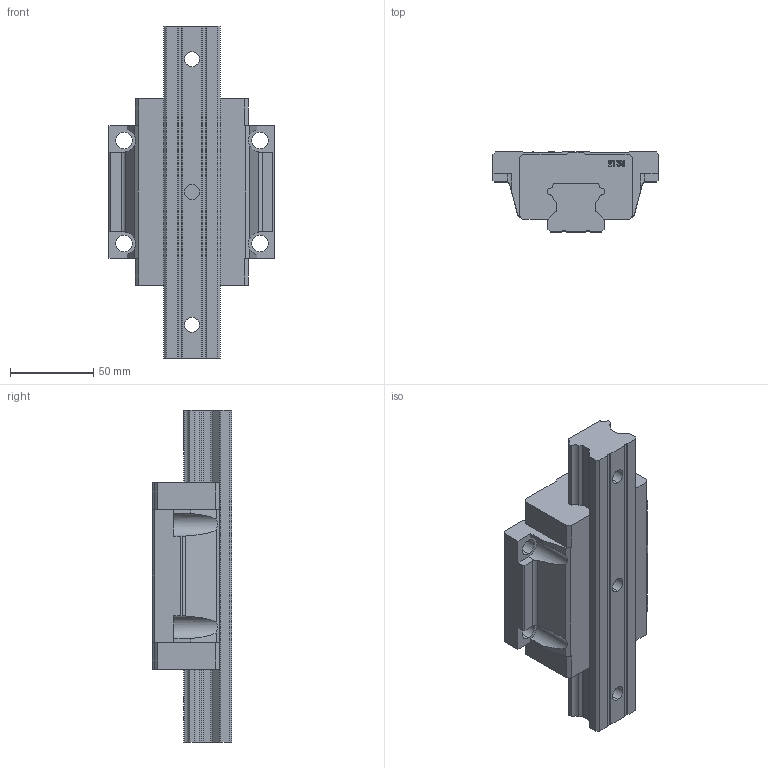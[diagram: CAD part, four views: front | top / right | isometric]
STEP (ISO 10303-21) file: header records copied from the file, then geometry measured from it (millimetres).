
FILE_DESCRIPTION (( 'STEP AP214' ), '1' );
FILE_NAME ('7.1005 Lineaarikelkka HTW35CC.STEP', '2026-03-11T11:01:09', ( '' ), ( '' ), 'SwSTEP 2.0', 'SolidWorks 2025', '' );
FILE_SCHEMA (( 'AUTOMOTIVE_DESIGN' ));
Length unit declared in the file: millimetre
Products named in the file (3): HTW35; HTR35; 7.1005 Lineaarikelkka HTW35CC
Assembly tree (2 placements, depth 2):
  7.1005 Lineaarikelkka HTW35CC
    HTW35
    HTR35
Bounding box: 100 x 48 x 200 mm (x, y, z)
Volume: 444852 mm3; surface area: 71480.1 mm2
Topology: 2 solids, 2 shells, 732 faces, 2073 edges, 1382 vertices
Faces by surface type: plane 663, cylinder 44, bspline 25
Entity records: 33789 total; most frequent: CARTESIAN_POINT 6709, ORIENTED_EDGE 4146, DIRECTION 3515, EDGE_CURVE 2073, VECTOR 1923, LINE 1923, VERTEX_POINT 1382, AXIS2_PLACEMENT_3D 796
